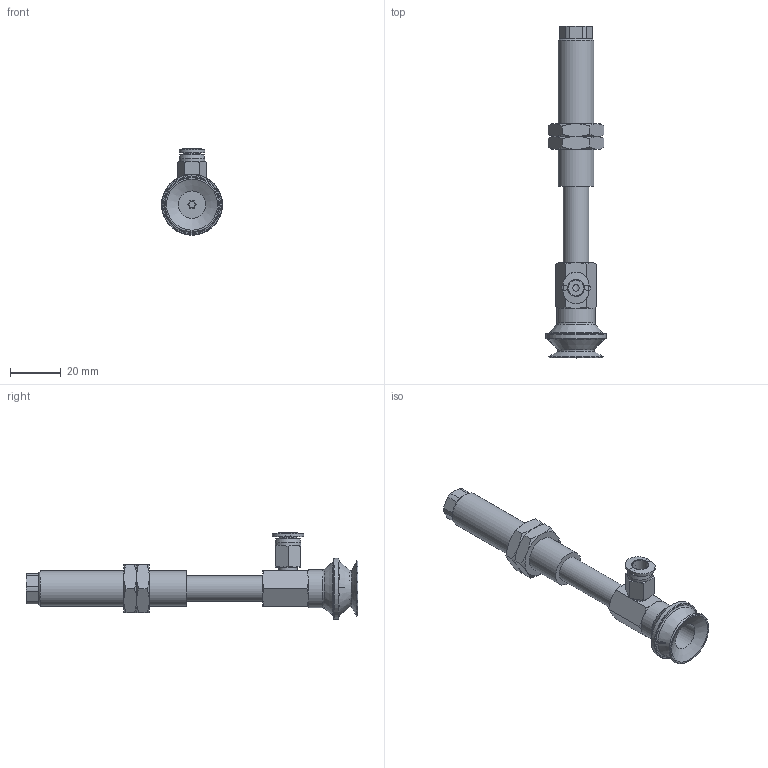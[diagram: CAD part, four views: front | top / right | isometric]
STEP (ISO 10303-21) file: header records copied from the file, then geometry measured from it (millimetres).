
FILE_DESCRIPTION(('STEP AP203'),'1');
FILE_NAME('-O.stp','2025-04-02T00:38:54',(' '),(' '),'Spatial InterOp 3D',' ',' ');
FILE_SCHEMA(('CONFIG_CONTROL_DESIGN'));
Length unit declared in the file: millimetre
Products named in the file (8): BNABPBYS-20-30-※-O; Adapter20-T-NAPB; CONNECTOR-20-30-PB; Nut-20-S-PB; NAPBTS-20-30--F; NAPBTS-20-30--M; BPBG-20-※; PC-C_06-M5
Assembly tree (8 placements, depth 2):
  BNABPBYS-20-30-※-O
    Adapter20-T-NAPB
    CONNECTOR-20-30-PB
    Nut-20-S-PB  x2
    NAPBTS-20-30--F
    NAPBTS-20-30--M
    BPBG-20-※
    PC-C_06-M5
Bounding box: 24 x 130.5 x 33.98 mm (x, y, z)
Volume: 19373.9 mm3; surface area: 15781.8 mm2
Topology: 7 solids, 10 shells, 206 faces, 442 edges, 270 vertices
Faces by surface type: plane 84, cone 72, cylinder 32, torus 11, bspline 4, revolution 3
Full cylindrical faces by diameter (mm): 2.5 x1, 3 x1, 4 x2, 4.134 x3, 4.6 x1, 5 x3, 7 x1, 7.4 x1, 8.2 x1, 10 x3, 10.8 x1, 11 x1, 12.917 x2, 14 x1, 15 x1, 24 x1
Entity records: 5496 total; most frequent: CARTESIAN_POINT 1469, DIRECTION 765, ORIENTED_EDGE 658, EDGE_CURVE 331, AXIS2_PLACEMENT_3D 329, EDGE_LOOP 264, VERTEX_POINT 231, FACE_OUTER_BOUND 155
